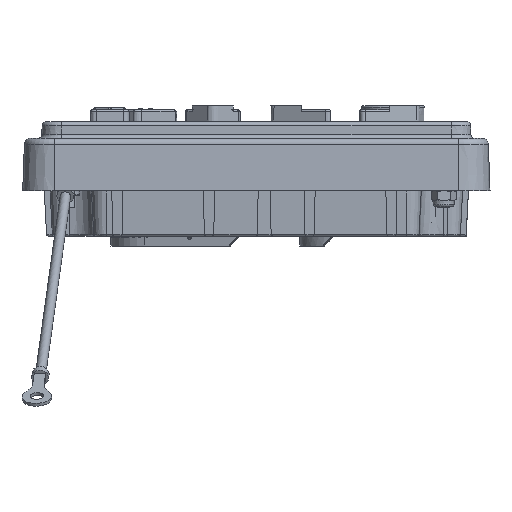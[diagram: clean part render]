
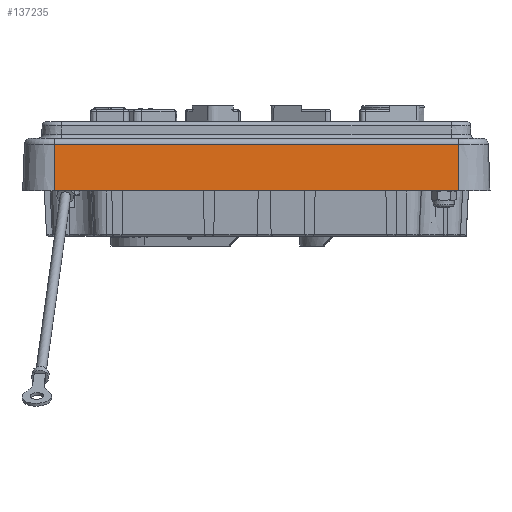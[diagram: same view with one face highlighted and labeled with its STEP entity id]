
A CAD part, left-side view. The second image highlights one B-rep face of the part: STEP entity #137235.
In plain terms, the highlighted planar face has unit normal (-0.999, 0, 0.035).
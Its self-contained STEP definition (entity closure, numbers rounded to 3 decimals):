
#222 = DIRECTION ( 'NONE',  ( -0.999, 0., 0.035 ) ) ;
#2472 = VERTEX_POINT ( 'NONE', #121599 ) ;
#5089 = DIRECTION ( 'NONE',  ( 0., 1., 0. ) ) ;
#16990 = VECTOR ( 'NONE', #194458, 1000. ) ;
#20202 = EDGE_CURVE ( 'NONE', #2472, #139270, #58772, .T. ) ;
#28137 = LINE ( 'NONE', #34625, #114562 ) ;
#34625 = CARTESIAN_POINT ( 'NONE',  ( -51.836, 51.25, 11.852 ) ) ;
#45094 = EDGE_CURVE ( 'NONE', #139270, #109257, #167310, .T. ) ;
#51185 = CARTESIAN_POINT ( 'NONE',  ( -51.836, -51.25, 11.852 ) ) ;
#51251 = EDGE_LOOP ( 'NONE', ( #101284, #141992, #203559, #64806 ) ) ;
#58772 = LINE ( 'NONE', #84378, #16990 ) ;
#60614 = FACE_OUTER_BOUND ( 'NONE', #51251, .T. ) ;
#64806 = ORIENTED_EDGE ( 'NONE', *, *, #45094, .T. ) ;
#65110 = DIRECTION ( 'NONE',  ( 0., -1., 0. ) ) ;
#80301 = CARTESIAN_POINT ( 'NONE',  ( -52.25, 51.25, 0. ) ) ;
#82167 = CARTESIAN_POINT ( 'NONE',  ( -52.25, 51.25, 0. ) ) ;
#84378 = CARTESIAN_POINT ( 'NONE',  ( -52.25, 51.25, 0. ) ) ;
#94552 = CARTESIAN_POINT ( 'NONE',  ( -52.25, 51.25, 0. ) ) ;
#98496 = VECTOR ( 'NONE', #65110, 1000. ) ;
#101284 = ORIENTED_EDGE ( 'NONE', *, *, #181107, .F. ) ;
#109257 = VERTEX_POINT ( 'NONE', #151420 ) ;
#110443 = DIRECTION ( 'NONE',  ( 0.035, 0., 0.999 ) ) ;
#114562 = VECTOR ( 'NONE', #5089, 1000. ) ;
#115591 = VECTOR ( 'NONE', #162298, 1000. ) ;
#116243 = CARTESIAN_POINT ( 'NONE',  ( -52.25, -51.25, 0. ) ) ;
#121599 = CARTESIAN_POINT ( 'NONE',  ( -51.836, 51.25, 11.852 ) ) ;
#137235 = ADVANCED_FACE ( 'NONE', ( #60614 ), #175629, .T. ) ;
#139270 = VERTEX_POINT ( 'NONE', #82167 ) ;
#141992 = ORIENTED_EDGE ( 'NONE', *, *, #165977, .T. ) ;
#151420 = CARTESIAN_POINT ( 'NONE',  ( -52.25, -51.25, 0. ) ) ;
#162298 = DIRECTION ( 'NONE',  ( -0.035, 0., -0.999 ) ) ;
#163925 = AXIS2_PLACEMENT_3D ( 'NONE', #94552, #222, #110443 ) ;
#165977 = EDGE_CURVE ( 'NONE', #184004, #2472, #28137, .T. ) ;
#167310 = LINE ( 'NONE', #80301, #98496 ) ;
#175629 = PLANE ( 'NONE',  #163925 ) ;
#181107 = EDGE_CURVE ( 'NONE', #184004, #109257, #189314, .T. ) ;
#184004 = VERTEX_POINT ( 'NONE', #51185 ) ;
#189314 = LINE ( 'NONE', #116243, #115591 ) ;
#194458 = DIRECTION ( 'NONE',  ( -0.035, 0., -0.999 ) ) ;
#203559 = ORIENTED_EDGE ( 'NONE', *, *, #20202, .T. ) ;
